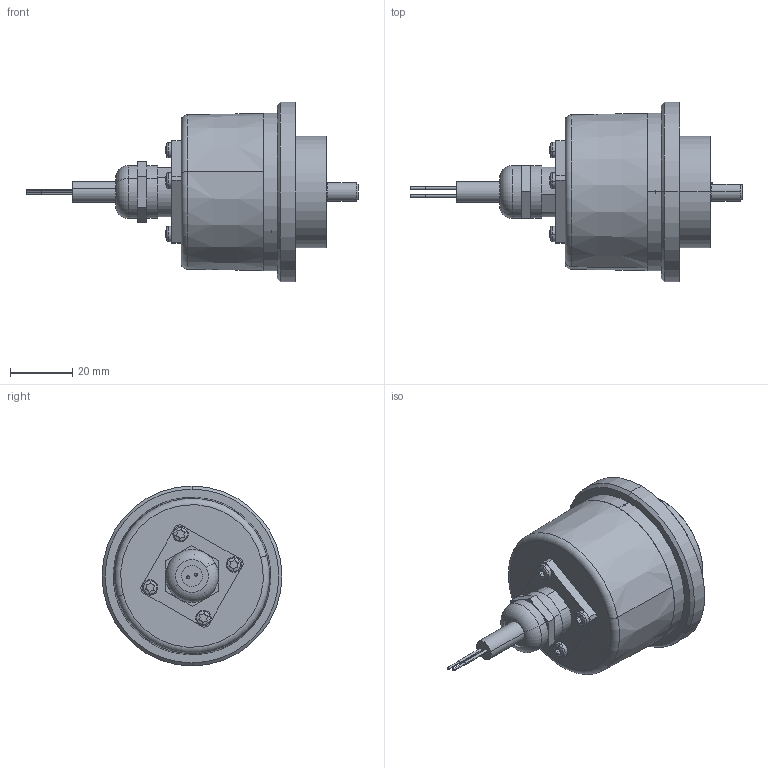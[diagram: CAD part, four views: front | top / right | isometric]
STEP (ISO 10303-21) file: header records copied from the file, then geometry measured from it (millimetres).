
FILE_DESCRIPTION (( 'STEP AP214' ), '1' );
FILE_NAME ('5000.81X1.XXXX.STEP', '2008-12-03T07:04:22', ( 'admin' ), ( 'Fritz Kübler GmbH' ), 'SwSTEP 2.0', 'SolidWorks 2008', '' );
FILE_SCHEMA (( 'AUTOMOTIVE_DESIGN' ));
Length unit declared in the file: millimetre
Products named in the file (1): 5000.81X1.XXXX
Bounding box: 107 x 58 x 58 mm (x, y, z)
Volume: 51941.2 mm3; surface area: 35881.7 mm2
Topology: 12 solids, 13 shells, 536 faces, 1248 edges, 752 vertices
Faces by surface type: plane 167, cylinder 152, cone 95, torus 75, sphere 35, bspline 12
Entity records: 22025 total; most frequent: CARTESIAN_POINT 3763, DIRECTION 2814, ORIENTED_EDGE 2364, AXIS2_PLACEMENT_3D 1183, EDGE_CURVE 1182, VERTEX_POINT 722, CIRCLE 658, EDGE_LOOP 628
